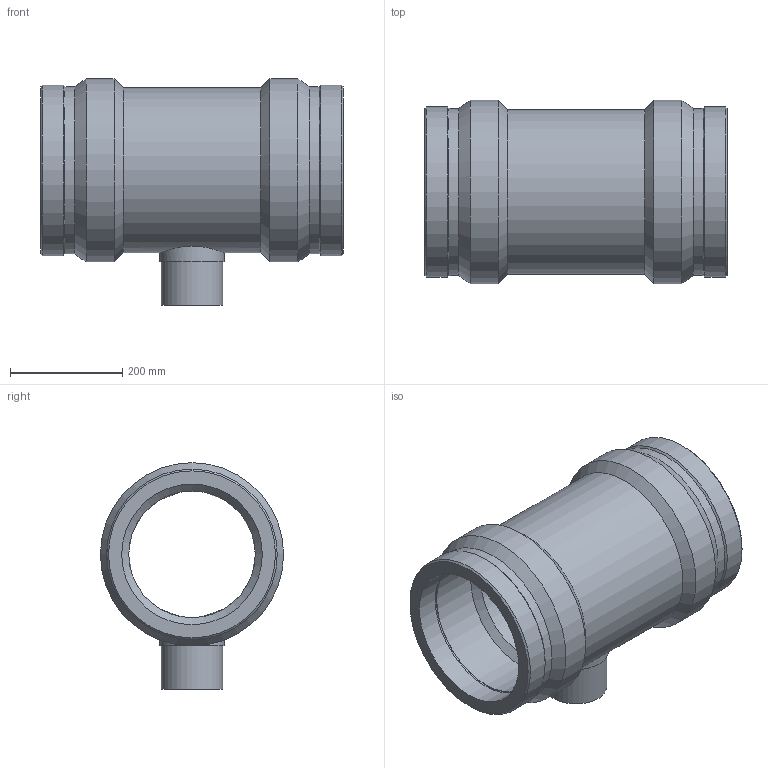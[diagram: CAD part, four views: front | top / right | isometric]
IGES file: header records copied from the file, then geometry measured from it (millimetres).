
Global section: file name: 491404250110.ipt; native system: Autodesk Inventor 2015; preprocessor: unknown; author: KIM; date: 20190909.112904; units: millimetre
Bounding box: 538 x 326 x 403 mm (x, y, z)
Volume: 15222699.9 mm3; surface area: 1050022 mm2
Topology: 1 solids, 1 shells, 45 faces, 101 edges, 66 vertices
Faces by surface type: plane 12, revolution 12, cylinder 11, cone 10
Full cylindrical faces by diameter (mm): 4 x2, 110 x1, 115.5 x1, 293.4 x1, 297.116 x2, 303.18 x2, 326 x2
